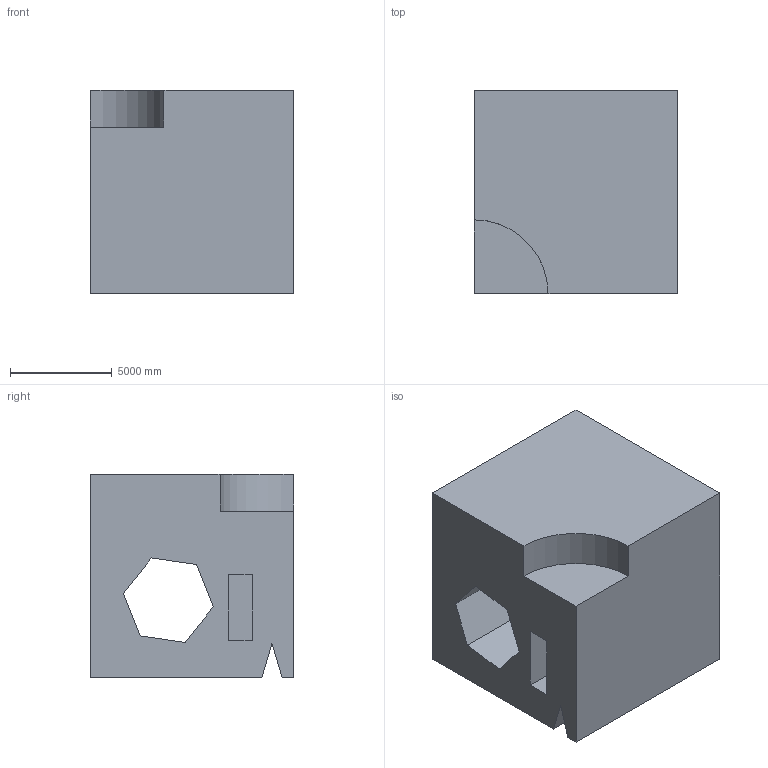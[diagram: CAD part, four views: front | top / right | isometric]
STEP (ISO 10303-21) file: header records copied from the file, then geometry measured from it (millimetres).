
FILE_DESCRIPTION (( 'STEP AP203' ), '1' );
FILE_NAME ('73.STEP', '2022-08-31T11:24:39', ( 'user' ), ( '' ), 'SwSTEP 2.0', 'SolidWorks 2021', '' );
FILE_SCHEMA (( 'CONFIG_CONTROL_DESIGN' ));
Length unit declared in the file: centimetre
Products named in the file (1): 73
Bounding box: 10000 x 10000 x 10000 mm (x, y, z)
Volume: 811908948798.7 mm3; surface area: 801658778.5 mm2
Topology: 1 solids, 1 shells, 22 faces, 57 edges, 38 vertices
Faces by surface type: plane 21, cylinder 1
Entity records: 744 total; most frequent: CARTESIAN_POINT 118, ORIENTED_EDGE 114, DIRECTION 105, EDGE_CURVE 57, VECTOR 55, LINE 55, VERTEX_POINT 38, AXIS2_PLACEMENT_3D 25
